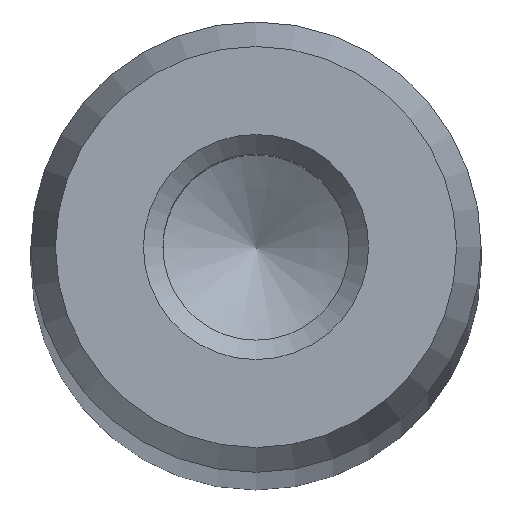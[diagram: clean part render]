
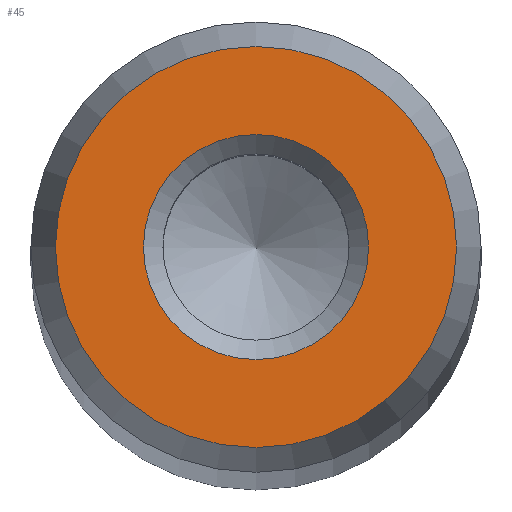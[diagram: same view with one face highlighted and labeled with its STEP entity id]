
A CAD part, top view. The second image highlights one B-rep face of the part: STEP entity #45.
In plain terms, the highlighted planar face has unit normal (0, 0, 1).
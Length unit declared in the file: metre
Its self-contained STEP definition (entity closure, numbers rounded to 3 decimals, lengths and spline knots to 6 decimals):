
#45 = ADVANCED_FACE( '', ( #96, #97 ), #98, .T. );
#96 = FACE_OUTER_BOUND( '', #155, .T. );
#97 = FACE_BOUND( '', #156, .T. );
#98 = PLANE( '', #157 );
#155 = EDGE_LOOP( '', ( #216 ) );
#156 = EDGE_LOOP( '', ( #217 ) );
#157 = AXIS2_PLACEMENT_3D( '', #218, #219, #220 );
#216 = ORIENTED_EDGE( '', *, *, #281, .T. );
#217 = ORIENTED_EDGE( '', *, *, #282, .T. );
#218 = CARTESIAN_POINT( '', ( 0., 0., 0.227 ) );
#219 = DIRECTION( '', ( 0., 0., 1. ) );
#220 = DIRECTION( '', ( 1., 0., 0. ) );
#281 = EDGE_CURVE( '', #315, #315, #316, .T. );
#282 = EDGE_CURVE( '', #317, #317, #318, .T. );
#315 = VERTEX_POINT( '', #352 );
#316 = CIRCLE( '', #353, 0.004454 );
#317 = VERTEX_POINT( '', #354 );
#318 = CIRCLE( '', #355, 0.0025 );
#352 = CARTESIAN_POINT( '', ( 0.004454, 0., 0.227 ) );
#353 = AXIS2_PLACEMENT_3D( '', #391, #392, #393 );
#354 = CARTESIAN_POINT( '', ( 0.0025, 0., 0.227 ) );
#355 = AXIS2_PLACEMENT_3D( '', #394, #395, #396 );
#391 = CARTESIAN_POINT( '', ( 0., 0., 0.227 ) );
#392 = DIRECTION( '', ( 0., 0., 1. ) );
#393 = DIRECTION( '', ( 1., 0., 0. ) );
#394 = CARTESIAN_POINT( '', ( 0., 0., 0.227 ) );
#395 = DIRECTION( '', ( 0., 0., -1. ) );
#396 = DIRECTION( '', ( 1., 0., 0. ) );
